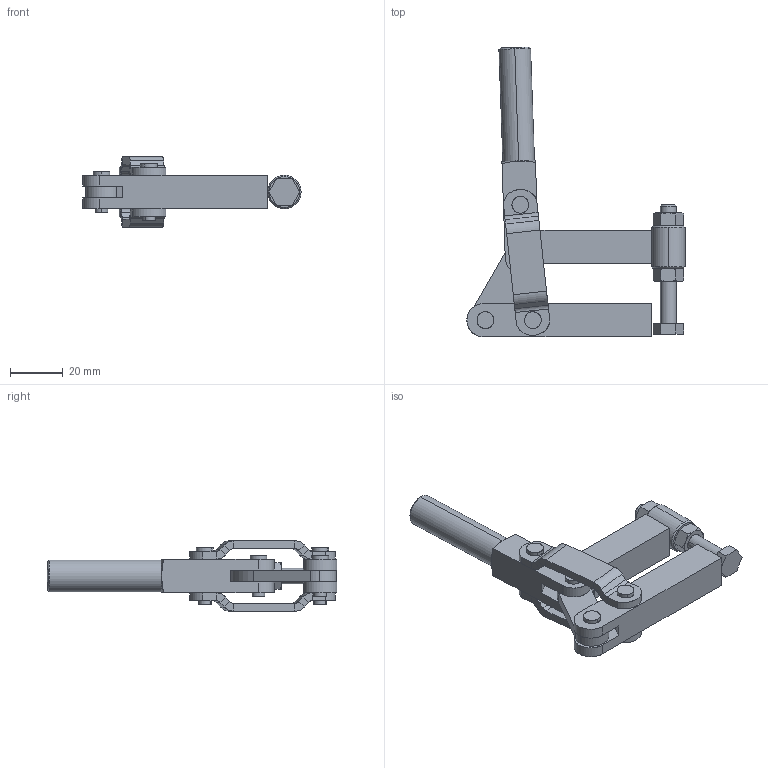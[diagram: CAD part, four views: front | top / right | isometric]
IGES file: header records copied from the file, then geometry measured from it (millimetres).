
Start section: SolidWorks IGES file using analytic representation for surfaces
Global section: file name: C:\Projetos\Grampos\KF-MP\KF-01 MP\KF-01 MP.IGS; native system: SolidWorks 2011; preprocessor: SolidWorks 2011; author: Usuario; date: 110517.111114; units: millimetre
Bounding box: 82.7 x 109.89 x 26.7 mm (x, y, z)
Surface area: 20845.3 mm2 (no closed solid volume)
Topology: 0 solids, 0 shells, 264 faces, 3556 edges, 3548 vertices
Faces by surface type: revolution 142, bspline 122
